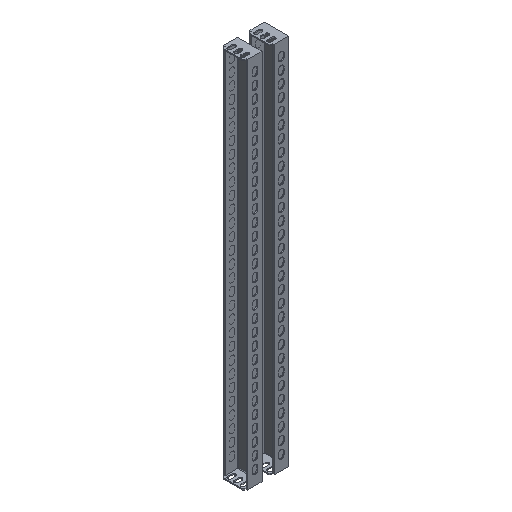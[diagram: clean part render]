
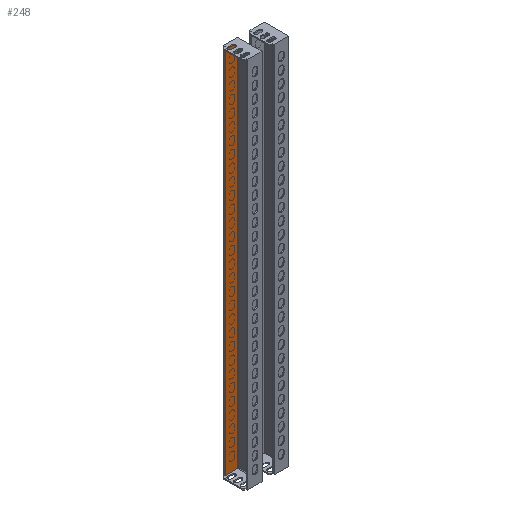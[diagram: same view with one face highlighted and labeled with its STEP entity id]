
A CAD part, isometric view. The second image highlights one B-rep face of the part: STEP entity #248.
In plain terms, the highlighted planar face has unit normal (0, -1, 0).
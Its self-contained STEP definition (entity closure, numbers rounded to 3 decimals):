
#248 = ADVANCED_FACE ( 'NONE', ( #13279 ), #9588, .F. ) ;
#966 = DIRECTION ( 'NONE',  ( 0., 1., 0. ) ) ;
#1538 = VECTOR ( 'NONE', #4745, 1000. ) ;
#1695 = ORIENTED_EDGE ( 'NONE', *, *, #10811, .F. ) ;
#2209 = EDGE_CURVE ( 'NONE', #10028, #12531, #4100, .T. ) ;
#2470 = ORIENTED_EDGE ( 'NONE', *, *, #7897, .T. ) ;
#2479 = DIRECTION ( 'NONE',  ( 0., 0., 1. ) ) ;
#3384 = LINE ( 'NONE', #8286, #6207 ) ;
#3767 = CARTESIAN_POINT ( 'NONE',  ( -3., 20., -375.021 ) ) ;
#4100 = LINE ( 'NONE', #13995, #6064 ) ;
#4745 = DIRECTION ( 'NONE',  ( 1., 0., 0. ) ) ;
#5840 = EDGE_CURVE ( 'NONE', #6825, #7009, #15778, .T. ) ;
#6064 = VECTOR ( 'NONE', #6362, 1000. ) ;
#6207 = VECTOR ( 'NONE', #8364, 1000. ) ;
#6362 = DIRECTION ( 'NONE',  ( -1., 0., 0. ) ) ;
#6825 = VERTEX_POINT ( 'NONE', #11039 ) ;
#7009 = VERTEX_POINT ( 'NONE', #8316 ) ;
#7897 = EDGE_CURVE ( 'NONE', #7009, #10028, #13662, .T. ) ;
#8286 = CARTESIAN_POINT ( 'NONE',  ( -27., 20., -375.021 ) ) ;
#8316 = CARTESIAN_POINT ( 'NONE',  ( -3., 20., -351. ) ) ;
#8332 = EDGE_LOOP ( 'NONE', ( #9053, #1695, #8506, #2470 ) ) ;
#8364 = DIRECTION ( 'NONE',  ( 0., 0., 1. ) ) ;
#8506 = ORIENTED_EDGE ( 'NONE', *, *, #5840, .T. ) ;
#9053 = ORIENTED_EDGE ( 'NONE', *, *, #2209, .T. ) ;
#9588 = PLANE ( 'NONE',  #11954 ) ;
#10028 = VERTEX_POINT ( 'NONE', #13708 ) ;
#10798 = CARTESIAN_POINT ( 'NONE',  ( -27., 20., 351. ) ) ;
#10811 = EDGE_CURVE ( 'NONE', #6825, #12531, #3384, .T. ) ;
#11039 = CARTESIAN_POINT ( 'NONE',  ( -27., 20., -351. ) ) ;
#11954 = AXIS2_PLACEMENT_3D ( 'NONE', #14260, #966, #15477 ) ;
#12531 = VERTEX_POINT ( 'NONE', #10798 ) ;
#13279 = FACE_OUTER_BOUND ( 'NONE', #8332, .T. ) ;
#13661 = VECTOR ( 'NONE', #2479, 1000. ) ;
#13662 = LINE ( 'NONE', #3767, #13661 ) ;
#13708 = CARTESIAN_POINT ( 'NONE',  ( -3., 20., 351. ) ) ;
#13995 = CARTESIAN_POINT ( 'NONE',  ( -32., 20., 351. ) ) ;
#14260 = CARTESIAN_POINT ( 'NONE',  ( -3., 20., -375.021 ) ) ;
#14483 = CARTESIAN_POINT ( 'NONE',  ( -3., 20., -351. ) ) ;
#15477 = DIRECTION ( 'NONE',  ( 1., 0., 0. ) ) ;
#15778 = LINE ( 'NONE', #14483, #1538 ) ;
